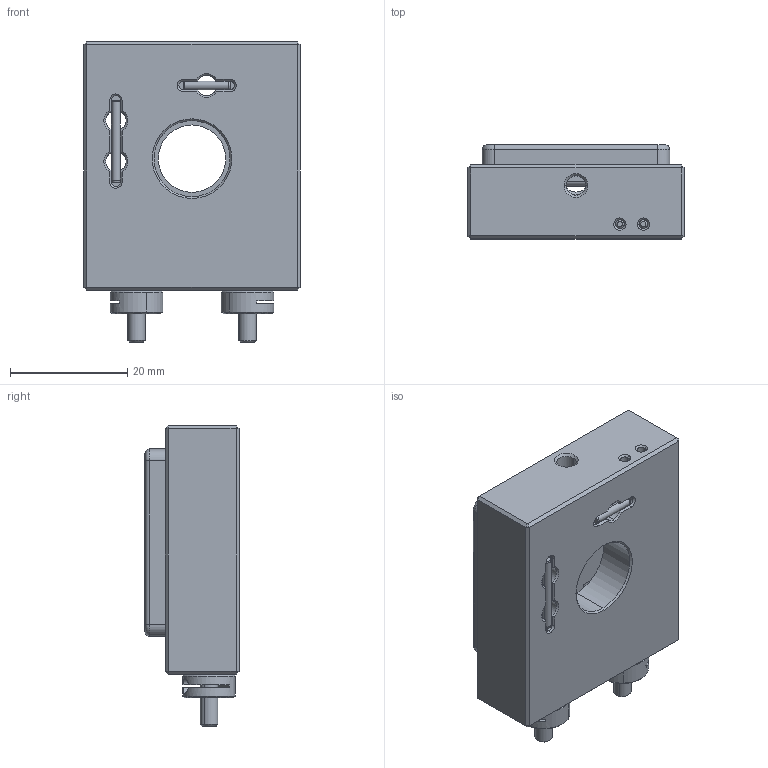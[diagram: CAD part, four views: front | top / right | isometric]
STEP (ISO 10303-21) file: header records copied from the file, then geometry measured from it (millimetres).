
FILE_DESCRIPTION (( 'STEP AP214' ), '1' );
FILE_NAME ('×°ÅäÌå2.STEP', '2026-07-11T01:24:42', ( '' ), ( '' ), 'SwSTEP 2.0', 'SolidWorks 2024', '' );
FILE_SCHEMA (( 'AUTOMOTIVE_DESIGN' ));
Length unit declared in the file: millimetre
Products named in the file (13): 定板; parallel pins hardening steel gb_GB_CONNECTING_PIECE_PIN_DP 1.5X14; M3×0.25螺纹副; 动板; 长杆; 圆柱销1.5×12; 梯槽; 装配体2; parallel pins hardening steel gb_GB_CONNECTING_PIECE_PIN_DP 1.5X8; 凹梯槽; 4 氮化硅; 短杆; 5 顶珠
Assembly tree (19 placements, depth 2):
  装配体2
    定板
    动板
    凹梯槽
    梯槽
    M3×0.25螺纹副  x2
    4 氮化硅
    圆柱销1.5×12  x4
    5 顶珠  x2
    短杆
    长杆
    parallel pins hardening steel gb_GB_CONNECTING_PIECE_PIN_DP 1.5X14  x2
    parallel pins hardening steel gb_GB_CONNECTING_PIECE_PIN_DP 1.5X8  x2
Bounding box: 37 x 16.06 x 51.39 mm (x, y, z)
Volume: 17325.8 mm3; surface area: 12334.3 mm2
Topology: 19 solids, 19 shells, 502 faces, 1173 edges, 704 vertices
Faces by surface type: plane 196, cylinder 152, cone 138, torus 10, sphere 6
Entity records: 13023 total; most frequent: CARTESIAN_POINT 2400, DIRECTION 2284, ORIENTED_EDGE 2038, EDGE_CURVE 1019, AXIS2_PLACEMENT_3D 867, VERTEX_POINT 613, LINE 550, VECTOR 550
